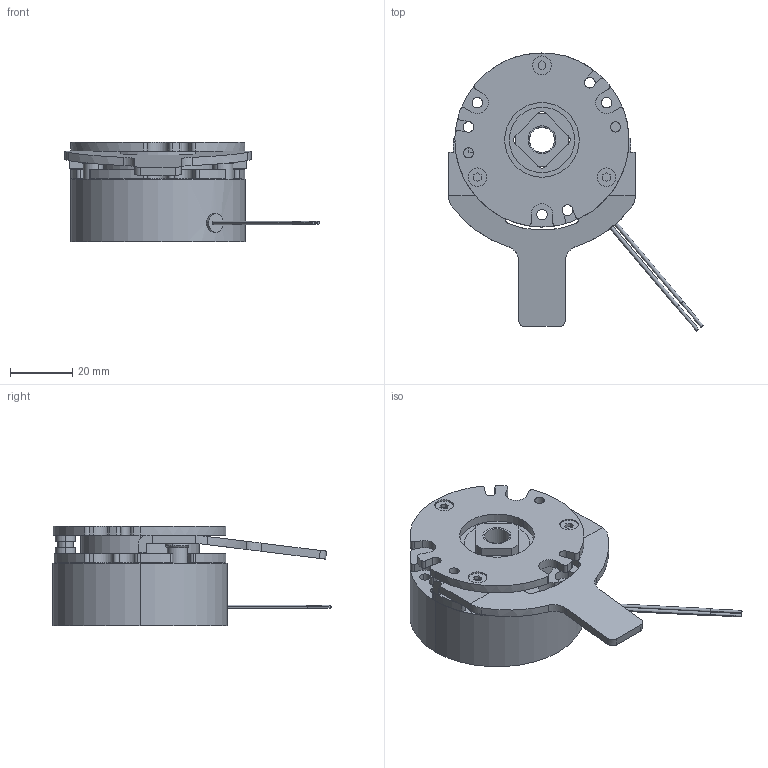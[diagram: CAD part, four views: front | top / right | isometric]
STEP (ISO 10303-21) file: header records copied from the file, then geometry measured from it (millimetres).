
FILE_DESCRIPTION (( 'STEP AP214' ), '1' );
FILE_NAME ('BXW-03-12L-8_STEP.STEP', '2017-09-07T00:21:06', ( 'MIKI' ), ( '' ), 'SwSTEP 2.0', 'SolidWorks 2012', '' );
FILE_SCHEMA (( 'AUTOMOTIVE_DESIGN' ));
Length unit declared in the file: millimetre
Products named in the file (1): BXW-03-12L-8_STEP
Bounding box: 81.89 x 89.45 x 31.9 mm (x, y, z)
Volume: 63603 mm3; surface area: 24943.1 mm2
Topology: 3 solids, 3 shells, 335 faces, 889 edges, 576 vertices
Faces by surface type: cylinder 172, plane 139, cone 16, torus 8
Entity records: 14452 total; most frequent: CARTESIAN_POINT 2093, DIRECTION 1871, ORIENTED_EDGE 1770, EDGE_CURVE 885, AXIS2_PLACEMENT_3D 686, VERTEX_POINT 576, LINE 499, VECTOR 499
